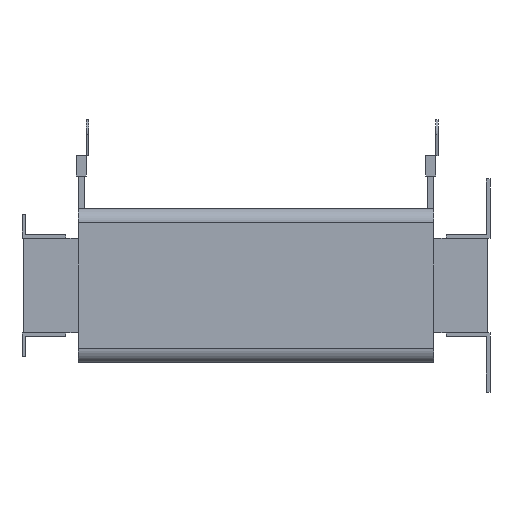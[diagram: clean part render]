
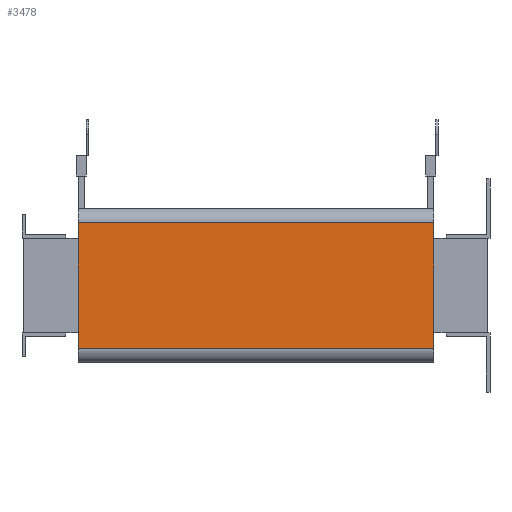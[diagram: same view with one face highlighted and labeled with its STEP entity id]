
A CAD part, left-side view. The second image highlights one B-rep face of the part: STEP entity #3478.
In plain terms, the highlighted planar face has unit normal (-1, 0, 0).
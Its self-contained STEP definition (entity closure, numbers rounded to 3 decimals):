
#113=PLANE('',#3750);
#290=FACE_OUTER_BOUND('',#498,.T.);
#498=EDGE_LOOP('',(#2811,#2812,#2813,#2814));
#769=LINE('',#5210,#1203);
#835=LINE('',#5366,#1269);
#836=LINE('',#5369,#1270);
#837=LINE('',#5370,#1271);
#1203=VECTOR('',#4230,10.);
#1269=VECTOR('',#4356,10.);
#1270=VECTOR('',#4359,10.);
#1271=VECTOR('',#4360,10.);
#1686=VERTEX_POINT('',#5207);
#1687=VERTEX_POINT('',#5209);
#1747=VERTEX_POINT('',#5364);
#1748=VERTEX_POINT('',#5368);
#2064=EDGE_CURVE('',#1687,#1686,#769,.T.);
#2144=EDGE_CURVE('',#1747,#1686,#835,.T.);
#2145=EDGE_CURVE('',#1687,#1748,#836,.T.);
#2146=EDGE_CURVE('',#1748,#1747,#837,.T.);
#2811=ORIENTED_EDGE('',*,*,#2145,.F.);
#2812=ORIENTED_EDGE('',*,*,#2064,.T.);
#2813=ORIENTED_EDGE('',*,*,#2144,.F.);
#2814=ORIENTED_EDGE('',*,*,#2146,.F.);
#3478=ADVANCED_FACE('',(#290),#113,.T.);
#3750=AXIS2_PLACEMENT_3D('',#5367,#4357,#4358);
#4230=DIRECTION('',(0.,0.,1.));
#4356=DIRECTION('',(0.,-1.,0.));
#4357=DIRECTION('center_axis',(-1.,0.,0.));
#4358=DIRECTION('ref_axis',(0.,0.,1.));
#4359=DIRECTION('',(0.,1.,0.));
#4360=DIRECTION('',(0.,0.,1.));
#5207=CARTESIAN_POINT('',(-154.,47.5,53.));
#5209=CARTESIAN_POINT('',(-154.,47.5,-53.));
#5210=CARTESIAN_POINT('',(-154.,47.5,-65.));
#5364=CARTESIAN_POINT('',(-154.,347.5,53.));
#5366=CARTESIAN_POINT('',(-154.,47.5,53.));
#5367=CARTESIAN_POINT('Origin',(-154.,47.5,-65.));
#5368=CARTESIAN_POINT('',(-154.,347.5,-53.));
#5369=CARTESIAN_POINT('',(-154.,47.5,-53.));
#5370=CARTESIAN_POINT('',(-154.,347.5,-65.));
